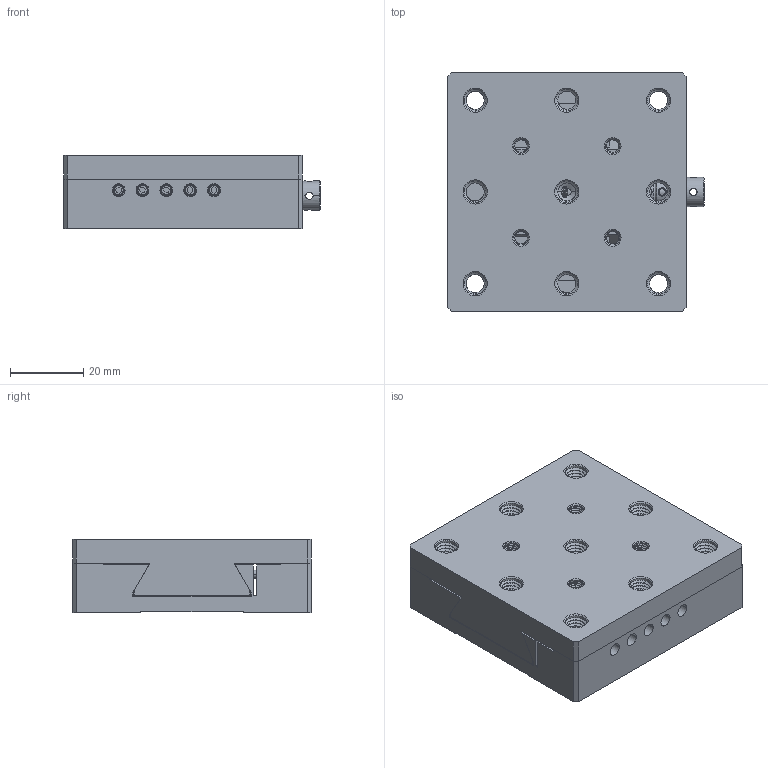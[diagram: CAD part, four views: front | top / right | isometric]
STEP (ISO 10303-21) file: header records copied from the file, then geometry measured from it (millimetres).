
FILE_DESCRIPTION((''),'2;1');
FILE_NAME('TSX-M3_ASM','2021-03-16T',('Administrator'),(''),'CREO PARAMETRIC BY PTC INC, 2017300','CREO PARAMETRIC BY PTC INC, 2017300','');
FILE_SCHEMA(('CONFIG_CONTROL_DESIGN'));
Products named in the file (14): TSX-M3_A1; M3X6_HSJ; M3X6_HSJ_02; TSX-M3_AA_ASM; TSX-M3_A3; DR-05; TSX-M3_A4; TSX-M3_A5; TSX-M3_BB_ASM; TSX-M3_A2; TSX-M3_A6; M3X4_HS; ALIS_3X4; TSX-M3_ASM
Assembly tree (17 placements, depth 3):
  TSX-M3_ASM
    TSX-M3_AA_ASM
      TSX-M3_A1
      M3X6_HSJ  x4
      M3X6_HSJ_02
    TSX-M3_BB_ASM
      TSX-M3_A3
      DR-05
      TSX-M3_A4
      TSX-M3_A5
    TSX-M3_A2
    TSX-M3_A6
    M3X4_HS  x2
    ALIS_3X4
Bounding box: 70 x 65 x 20 mm (x, y, z)
Volume: 65446.4 mm3; surface area: 33585.1 mm2
Topology: 15 solids, 15 shells, 1117 faces, 2998 edges, 1906 vertices
Faces by surface type: cylinder 556, bspline 239, plane 206, cone 116
Entity records: 72933 total; most frequent: CARTESIAN_POINT 49302, ORIENTED_EDGE 5668, DIRECTION 3544, EDGE_CURVE 2834, VERTEX_POINT 1819, B_SPLINE_CURVE_WITH_KNOTS 1337, AXIS2_PLACEMENT_3D 1207, VECTOR 1130
